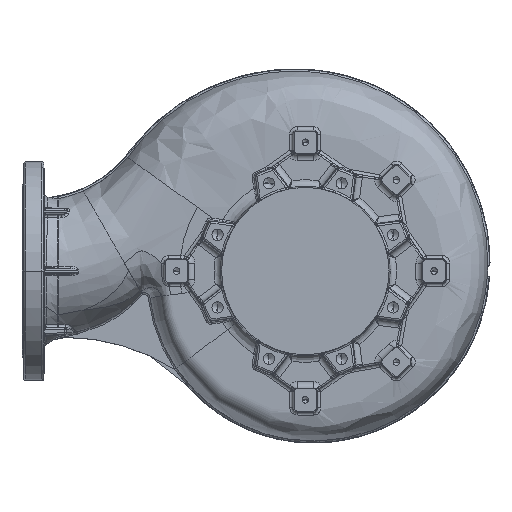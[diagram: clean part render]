
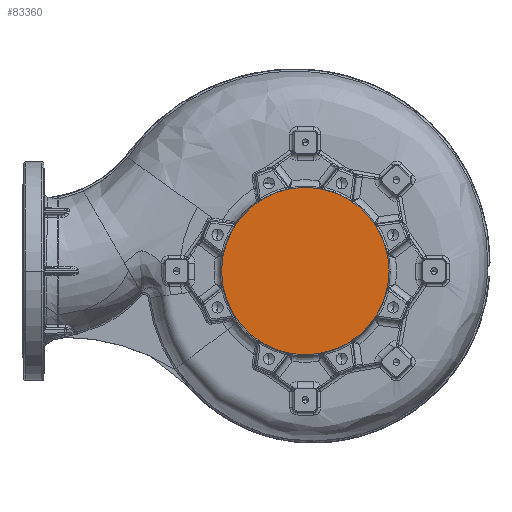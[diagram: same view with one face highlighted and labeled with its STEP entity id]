
A CAD part, front view. The second image highlights one B-rep face of the part: STEP entity #83360.
In plain terms, the highlighted planar face has unit normal (0, -1, 0).
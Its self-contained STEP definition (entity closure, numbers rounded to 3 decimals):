
#2111 = AXIS2_PLACEMENT_3D ( 'NONE', #84808, #12592, #96897 ) ;
#11783 = CIRCLE ( 'NONE', #105953, 130. ) ;
#12592 = DIRECTION ( 'NONE',  ( 0., 1., 0. ) ) ;
#13050 = EDGE_CURVE ( 'NONE', #86579, #43380, #11783, .T. ) ;
#13941 = ORIENTED_EDGE ( 'NONE', *, *, #13050, .T. ) ;
#14006 = DIRECTION ( 'NONE',  ( 0., -1., 0. ) ) ;
#15919 = ORIENTED_EDGE ( 'NONE', *, *, #106513, .T. ) ;
#24375 = EDGE_LOOP ( 'NONE', ( #13941, #15919 ) ) ;
#37806 = CARTESIAN_POINT ( 'NONE',  ( -130., -578.5, 0. ) ) ;
#43380 = VERTEX_POINT ( 'NONE', #46157 ) ;
#46157 = CARTESIAN_POINT ( 'NONE',  ( 130., -578.5, 0. ) ) ;
#71960 = AXIS2_PLACEMENT_3D ( 'NONE', #86242, #14006, #98318 ) ;
#81991 = CIRCLE ( 'NONE', #71960, 130. ) ;
#83360 = ADVANCED_FACE ( 'NONE', ( #135123 ), #108522, .F. ) ;
#84808 = CARTESIAN_POINT ( 'NONE',  ( 0., -578.5, 0. ) ) ;
#86242 = CARTESIAN_POINT ( 'NONE',  ( 0., -578.5, 0. ) ) ;
#86579 = VERTEX_POINT ( 'NONE', #37806 ) ;
#96897 = DIRECTION ( 'NONE',  ( -1., 0., 0. ) ) ;
#98318 = DIRECTION ( 'NONE',  ( 1., 0., 0. ) ) ;
#105953 = AXIS2_PLACEMENT_3D ( 'NONE', #139051, #138908, #138877 ) ;
#106513 = EDGE_CURVE ( 'NONE', #43380, #86579, #81991, .T. ) ;
#108522 = PLANE ( 'NONE',  #2111 ) ;
#135123 = FACE_OUTER_BOUND ( 'NONE', #24375, .T. ) ;
#138877 = DIRECTION ( 'NONE',  ( 1., 0., 0. ) ) ;
#138908 = DIRECTION ( 'NONE',  ( 0., -1., 0. ) ) ;
#139051 = CARTESIAN_POINT ( 'NONE',  ( 0., -578.5, 0. ) ) ;
